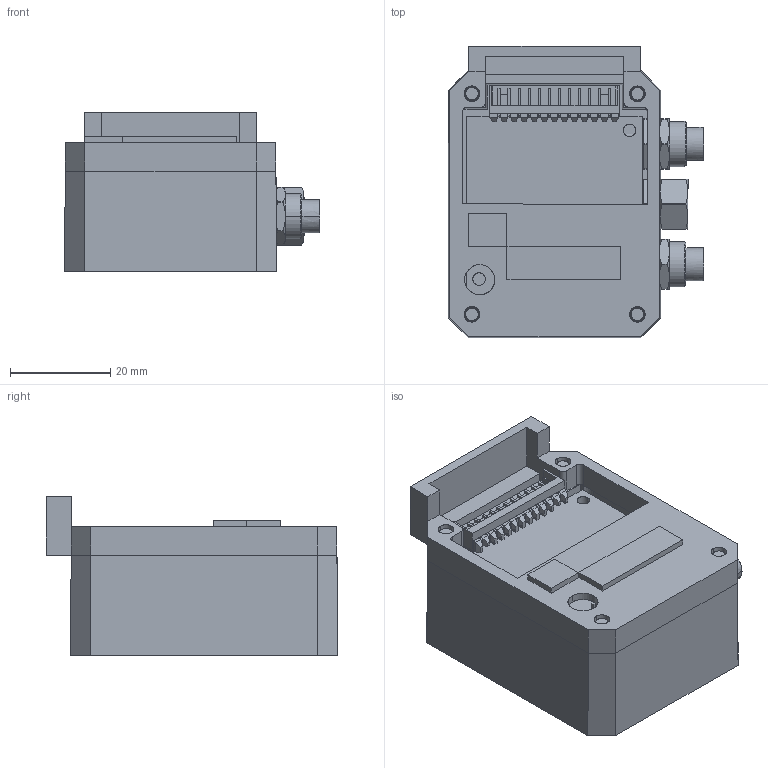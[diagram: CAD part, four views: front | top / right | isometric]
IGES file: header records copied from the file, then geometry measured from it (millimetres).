
Start section: SolidWorks IGES file using analytic representation for surfaces
Global section: file name: C:\Users\render\Documents\CAD Files\CoolmuscleMotors\CM1-InterfaceOptions\CM1CAN3\CM1CAN3.IGS; native system: SolidWorks 2009; preprocessor: SolidWorks 2009; author: render; date: 100625.133932; units: millimetre
Bounding box: 50.89 x 58.19 x 31.7 mm (x, y, z)
Surface area: 26777.6 mm2 (no closed solid volume)
Topology: 0 solids, 0 shells, 1659 faces, 12583 edges, 12553 vertices
Faces by surface type: bspline 1262, revolution 397
